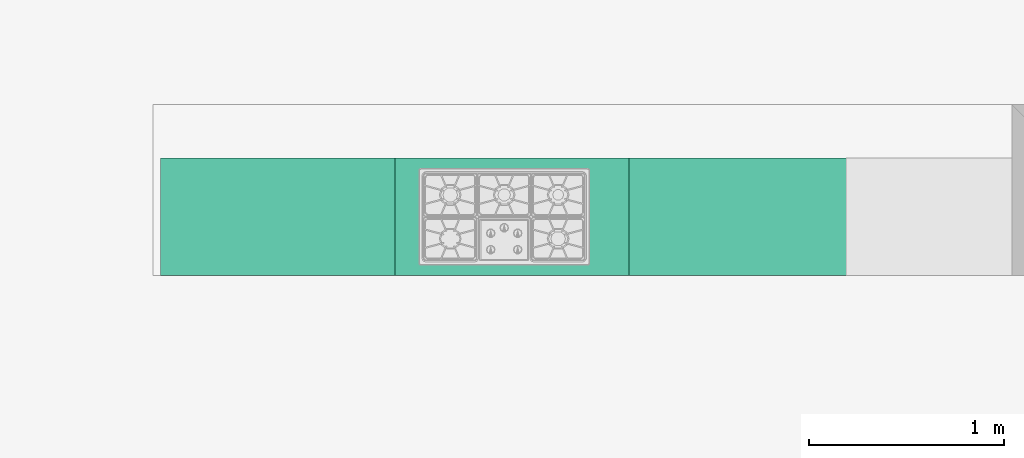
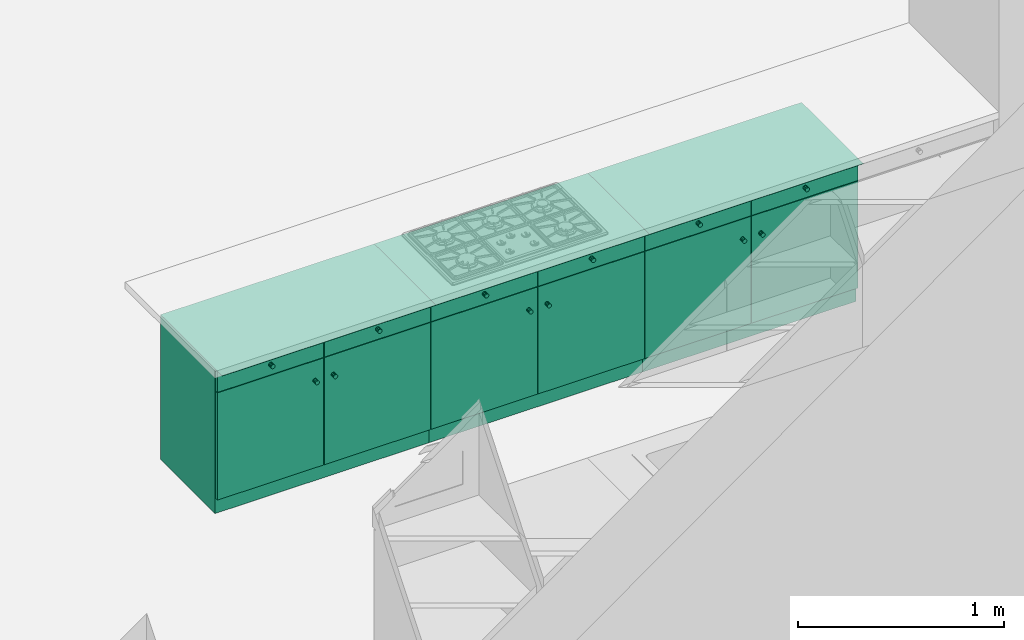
# One storey, part 15 of 26: 3 distribution elements.
"""IFC2X3 building model written with IfcOpenShell, lengths in millimetres."""

from ifc_helpers import new_model, entity, si_unit, converted_unit, money_unit, direction, frame, origin_with_axes, place, context, subcontext, project, spatial, faceted_brep, source, transform, mapped, material, type_object, element, save


model = new_model("IFC2X3")

# Units and contexts
model_context = context("Model", 3, precision=1e-05, world=origin_with_axes(), true_north=direction((0.0, 1.0)))
body_context = subcontext(model_context, "Body", "Model", "MODEL_VIEW")
ifc_project = project(units=[si_unit("LENGTHUNIT", "METRE", prefix="MILLI"), si_unit("AREAUNIT", "SQUARE_METRE"), si_unit("VOLUMEUNIT", "CUBIC_METRE"), converted_unit("PLANEANGLEUNIT", "DEGREE", entity("IfcPlaneAngleMeasure", 0.0174532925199), si_unit("PLANEANGLEUNIT", "RADIAN"), dimensions=[0, 0, 0, 0, 0, 0, 0]), si_unit("SOLIDANGLEUNIT", "STERADIAN"), money_unit("USD"), converted_unit("TIMEUNIT", "Year", entity("IfcTimeMeasure", 31556926.0), si_unit("TIMEUNIT", "SECOND"), dimensions=[0, 0, 0, 0, 0, 0, 0]), si_unit("MASSUNIT", "GRAM"), si_unit("THERMODYNAMICTEMPERATUREUNIT", "DEGREE_CELSIUS"), si_unit("LUMINOUSINTENSITYUNIT", "LUMEN")], contexts=[model_context])

# Site, building, storey
site_placement = place(None, origin_with_axes())
site = spatial("IfcSite", under=ifc_project, at=site_placement, Name="Grove Residential", CompositionType="ELEMENT")
building_placement = place(site_placement, origin_with_axes())
building = spatial("IfcBuilding", under=site, at=building_placement, Name="Building", CompositionType="ELEMENT")
storey_placement = place(building_placement, origin_with_axes())
storey = spatial("IfcBuildingStorey", under=building, at=storey_placement, Name="Ground Floor", CompositionType="ELEMENT", Elevation=0.0)

# Distribution elements
ifc_material = material(Name="Background")
distribution_element_type = type_object("IfcDistributionElementType", Name="Cabinet Base Double Door 21")
shared_shape = source(origin_with_axes(), body_context, "Body", "Brep", [
    faceted_brep([(-20.0, 70.0, 719.0), (-20.0, 70.0, 739.0), (-1180.0, 70.0, 739.0), (-1180.0, 70.0, 719.0), (-20.0, 580.0, 719.0), (-20.0, 580.0, 739.0), (-1180.0, 580.0, 739.0), (-1180.0, 580.0, 719.0)], [[[0, 1, 2, 3]], [[4, 5, 1, 0]], [[1, 5, 6, 2]], [[3, 2, 6, 7]], [[0, 3, 7, 4]], [[7, 6, 5, 4]]]),
    faceted_brep([(0.0, 70.0, 0.0), (0.0, 70.0, 90.0), (-1200.0, 70.0, 90.0), (-1200.0, 70.0, 0.0), (0.0, 600.0, 0.0), (0.0, 600.0, 90.0), (-1200.0, 600.0, 90.0), (-1200.0, 600.0, 0.0)], [[[0, 1, 2, 3]], [[4, 5, 1, 0]], [[1, 5, 6, 2]], [[3, 2, 6, 7]], [[0, 3, 7, 4]], [[7, 6, 5, 4]]]),
    faceted_brep([(0.0, 70.0, 839.0), (0.0, 70.0, 859.0), (-20.0, 70.0, 859.0), (-20.0, 70.0, 839.0), (0.0, 600.0, 839.0), (0.0, 600.0, 859.0), (-20.0, 600.0, 859.0), (-1180.0, 600.0, 859.0), (-1200.0, 600.0, 859.0), (-1200.0, 70.0, 859.0), (-1180.0, 70.0, 859.0), (-1180.0, 70.0, 839.0), (-1200.0, 70.0, 839.0), (-1200.0, 600.0, 839.0), (-1180.0, 600.0, 839.0), (-20.0, 600.0, 839.0)], [[[0, 1, 2, 3]], [[4, 5, 1, 0]], [[1, 5, 6, 7, 8, 9, 10, 2]], [[3, 2, 10, 11]], [[0, 3, 11, 12, 13, 14, 15, 4]], [[15, 6, 5, 4]], [[14, 7, 6, 15]], [[13, 8, 7, 14]], [[12, 9, 8, 13]], [[11, 10, 9, 12]]]),
    faceted_brep([(0.0, 70.0, 90.0), (0.0, 70.0, 110.0), (-20.0, 70.0, 110.0), (-20.0, 70.0, 90.0), (0.0, 600.0, 90.0), (0.0, 600.0, 110.0), (-20.0, 600.0, 110.0), (-1180.0, 600.0, 110.0), (-1200.0, 600.0, 110.0), (-1200.0, 70.0, 110.0), (-1180.0, 70.0, 110.0), (-1180.0, 70.0, 90.0), (-1200.0, 70.0, 90.0), (-1200.0, 600.0, 90.0), (-1180.0, 600.0, 90.0), (-20.0, 600.0, 90.0)], [[[0, 1, 2, 3]], [[4, 5, 1, 0]], [[1, 5, 6, 7, 8, 9, 10, 2]], [[3, 2, 10, 11]], [[0, 3, 11, 12, 13, 14, 15, 4]], [[15, 6, 5, 4]], [[14, 7, 6, 15]], [[13, 8, 7, 14]], [[12, 9, 8, 13]], [[11, 10, 9, 12]]]),
    faceted_brep([(0.0, 70.0, 110.0), (0.0, 70.0, 839.0), (-20.0, 70.0, 839.0), (-20.0, 70.0, 110.0), (0.0, 600.0, 110.0), (0.0, 600.0, 839.0), (-1200.0, 600.0, 839.0), (-1200.0, 70.0, 839.0), (-1180.0, 70.0, 839.0), (-1180.0, 580.0, 839.0), (-20.0, 580.0, 839.0), (-20.0, 580.0, 110.0), (-1180.0, 580.0, 110.0), (-1180.0, 70.0, 110.0), (-1200.0, 70.0, 110.0), (-1200.0, 600.0, 110.0)], [[[0, 1, 2, 3]], [[4, 5, 1, 0]], [[1, 5, 6, 7, 8, 9, 10, 2]], [[3, 2, 10, 11]], [[0, 3, 11, 12, 13, 14, 15, 4]], [[15, 6, 5, 4]], [[14, 7, 6, 15]], [[13, 8, 7, 14]], [[12, 9, 8, 13]], [[11, 10, 9, 12]]]),
    faceted_brep([(-1180.0, 70.0, 389.5), (-1180.0, 70.0, 409.5), (-1180.0, 580.0, 409.5), (-1180.0, 580.0, 389.5), (-20.0, 70.0, 389.5), (-20.0, 70.0, 409.5), (-20.0, 580.0, 409.5), (-20.0, 580.0, 389.5)], [[[0, 1, 2, 3]], [[4, 5, 1, 0]], [[1, 5, 6, 2]], [[3, 2, 6, 7]], [[0, 3, 7, 4]], [[7, 6, 5, 4]]]),
    faceted_brep([(0.0, 0.0, 859.0), (0.0, 0.0, 860.0), (-1200.0, 0.0, 860.0), (-1200.0, 0.0, 859.0), (0.0, 600.0, 859.0), (0.0, 600.0, 860.0), (-1200.0, 600.0, 860.0), (-1200.0, 600.0, 859.0)], [[[0, 1, 2, 3]], [[4, 5, 1, 0]], [[1, 5, 6, 2]], [[3, 2, 6, 7]], [[0, 3, 7, 4]], [[7, 6, 5, 4]]]),
    faceted_brep([(-1.5, 70.0, 730.5), (-1.5, 50.0, 730.5), (-598.5, 50.0, 730.5), (-598.5, 70.0, 730.5), (-1.5, 70.0, 857.5), (-1.5, 50.0, 857.5), (-598.5, 50.0, 857.5), (-598.5, 70.0, 857.5)], [[[0, 1, 2, 3]], [[4, 5, 1, 0]], [[1, 5, 6, 2]], [[3, 2, 6, 7]], [[0, 3, 7, 4]], [[7, 6, 5, 4]]]),
    faceted_brep([(-601.5, 70.0, 730.5), (-601.5, 50.0, 730.5), (-1198.5, 50.0, 730.5), (-1198.5, 70.0, 730.5), (-601.5, 70.0, 857.5), (-601.5, 50.0, 857.5), (-1198.5, 50.0, 857.5), (-1198.5, 70.0, 857.5)], [[[0, 1, 2, 3]], [[4, 5, 1, 0]], [[1, 5, 6, 2]], [[3, 2, 6, 7]], [[0, 3, 7, 4]], [[7, 6, 5, 4]]]),
    faceted_brep([(-295.407798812, 50.0, 782.91344561), (-300.0, 50.0, 782.0), (-304.592201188, 50.0, 782.91344561), (-308.485281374, 50.0, 785.514718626), (-311.08655439, 50.0, 789.407798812), (-312.0, 50.0, 794.0), (-311.08655439, 50.0, 798.592201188), (-308.485281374, 50.0, 802.485281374), (-304.592201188, 50.0, 805.08655439), (-300.0, 50.0, 806.0), (-295.407798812, 50.0, 805.08655439), (-291.514718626, 50.0, 802.485281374), (-288.91344561, 50.0, 798.592201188), (-288.0, 50.0, 794.0), (-288.91344561, 50.0, 789.407798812), (-291.514718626, 50.0, 785.514718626), (-295.407798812, 25.0, 782.91344561), (-300.0, 25.0, 782.0), (-304.592201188, 25.0, 782.91344561), (-308.485281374, 25.0, 785.514718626), (-311.08655439, 25.0, 789.407798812), (-312.0, 25.0, 794.0), (-311.08655439, 25.0, 798.592201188), (-308.485281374, 25.0, 802.485281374), (-304.592201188, 25.0, 805.08655439), (-300.0, 25.0, 806.0), (-295.407798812, 25.0, 805.08655439), (-291.514718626, 25.0, 802.485281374), (-288.91344561, 25.0, 798.592201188), (-288.0, 25.0, 794.0), (-288.91344561, 25.0, 789.407798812), (-291.514718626, 25.0, 785.514718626)], [[[0, 1, 2, 3, 4, 5, 6, 7, 8, 9, 10, 11, 12, 13, 14, 15]], [[0, 16, 17, 1]], [[1, 17, 18, 2]], [[2, 18, 19, 3]], [[3, 19, 20, 4]], [[4, 20, 21, 5]], [[5, 21, 22, 6]], [[6, 22, 23, 7]], [[7, 23, 24, 8]], [[8, 24, 25, 9]], [[9, 25, 26, 10]], [[10, 26, 27, 11]], [[11, 27, 28, 12]], [[12, 28, 29, 13]], [[13, 29, 30, 14]], [[14, 30, 31, 15]], [[15, 31, 16, 0]], [[16, 31, 30, 29, 28, 27, 26, 25, 24, 23, 22, 21, 20, 19, 18, 17]]]),
    faceted_brep([(-895.407798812, 50.0, 782.91344561), (-900.0, 50.0, 782.0), (-904.592201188, 50.0, 782.91344561), (-908.485281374, 50.0, 785.514718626), (-911.08655439, 50.0, 789.407798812), (-912.0, 50.0, 794.0), (-911.08655439, 50.0, 798.592201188), (-908.485281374, 50.0, 802.485281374), (-904.592201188, 50.0, 805.08655439), (-900.0, 50.0, 806.0), (-895.407798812, 50.0, 805.08655439), (-891.514718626, 50.0, 802.485281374), (-888.91344561, 50.0, 798.592201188), (-888.0, 50.0, 794.0), (-888.91344561, 50.0, 789.407798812), (-891.514718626, 50.0, 785.514718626), (-895.407798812, 25.0, 782.91344561), (-900.0, 25.0, 782.0), (-904.592201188, 25.0, 782.91344561), (-908.485281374, 25.0, 785.514718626), (-911.08655439, 25.0, 789.407798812), (-912.0, 25.0, 794.0), (-911.08655439, 25.0, 798.592201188), (-908.485281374, 25.0, 802.485281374), (-904.592201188, 25.0, 805.08655439), (-900.0, 25.0, 806.0), (-895.407798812, 25.0, 805.08655439), (-891.514718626, 25.0, 802.485281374), (-888.91344561, 25.0, 798.592201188), (-888.0, 25.0, 794.0), (-888.91344561, 25.0, 789.407798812), (-891.514718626, 25.0, 785.514718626)], [[[0, 1, 2, 3, 4, 5, 6, 7, 8, 9, 10, 11, 12, 13, 14, 15]], [[0, 16, 17, 1]], [[1, 17, 18, 2]], [[2, 18, 19, 3]], [[3, 19, 20, 4]], [[4, 20, 21, 5]], [[5, 21, 22, 6]], [[6, 22, 23, 7]], [[7, 23, 24, 8]], [[8, 24, 25, 9]], [[9, 25, 26, 10]], [[10, 26, 27, 11]], [[11, 27, 28, 12]], [[12, 28, 29, 13]], [[13, 29, 30, 14]], [[14, 30, 31, 15]], [[15, 31, 16, 0]], [[16, 31, 30, 29, 28, 27, 26, 25, 24, 23, 22, 21, 20, 19, 18, 17]]]),
    faceted_brep([(-1.5, 70.0, 91.5), (-1.5, 50.0, 91.5), (-598.5, 50.0, 91.5), (-598.5, 70.0, 91.5), (-1.5, 70.0, 727.5), (-1.5, 50.0, 727.5), (-598.5, 50.0, 727.5), (-598.5, 70.0, 727.5)], [[[0, 1, 2, 3]], [[4, 5, 1, 0]], [[1, 5, 6, 2]], [[3, 2, 6, 7]], [[0, 3, 7, 4]], [[7, 6, 5, 4]]]),
    faceted_brep([(-559.58655439, 50.0, 606.907798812), (-560.5, 50.0, 611.5), (-559.58655439, 50.0, 616.092201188), (-556.985281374, 50.0, 619.985281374), (-553.092201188, 50.0, 622.58655439), (-548.5, 50.0, 623.5), (-543.907798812, 50.0, 622.58655439), (-540.014718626, 50.0, 619.985281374), (-537.41344561, 50.0, 616.092201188), (-536.5, 50.0, 611.5), (-537.41344561, 50.0, 606.907798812), (-540.014718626, 50.0, 603.014718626), (-543.907798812, 50.0, 600.41344561), (-548.5, 50.0, 599.5), (-553.092201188, 50.0, 600.41344561), (-556.985281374, 50.0, 603.014718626), (-559.58655439, 25.0, 606.907798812), (-560.5, 25.0, 611.5), (-559.58655439, 25.0, 616.092201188), (-556.985281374, 25.0, 619.985281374), (-553.092201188, 25.0, 622.58655439), (-548.5, 25.0, 623.5), (-543.907798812, 25.0, 622.58655439), (-540.014718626, 25.0, 619.985281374), (-537.41344561, 25.0, 616.092201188), (-536.5, 25.0, 611.5), (-537.41344561, 25.0, 606.907798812), (-540.014718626, 25.0, 603.014718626), (-543.907798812, 25.0, 600.41344561), (-548.5, 25.0, 599.5), (-553.092201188, 25.0, 600.41344561), (-556.985281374, 25.0, 603.014718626)], [[[0, 1, 2, 3, 4, 5, 6, 7, 8, 9, 10, 11, 12, 13, 14, 15]], [[0, 16, 17, 1]], [[1, 17, 18, 2]], [[2, 18, 19, 3]], [[3, 19, 20, 4]], [[4, 20, 21, 5]], [[5, 21, 22, 6]], [[6, 22, 23, 7]], [[7, 23, 24, 8]], [[8, 24, 25, 9]], [[9, 25, 26, 10]], [[10, 26, 27, 11]], [[11, 27, 28, 12]], [[12, 28, 29, 13]], [[13, 29, 30, 14]], [[14, 30, 31, 15]], [[15, 31, 16, 0]], [[16, 31, 30, 29, 28, 27, 26, 25, 24, 23, 22, 21, 20, 19, 18, 17]]]),
    faceted_brep([(-1198.5, 70.0, 91.5), (-601.5, 70.0, 91.5), (-601.5, 50.0, 91.5), (-1198.5, 50.0, 91.5), (-1198.5, 70.0, 727.5), (-601.5, 70.0, 727.5), (-601.5, 50.0, 727.5), (-1198.5, 50.0, 727.5)], [[[0, 1, 2, 3]], [[0, 4, 5, 1]], [[1, 5, 6, 2]], [[3, 2, 6, 7]], [[4, 0, 3, 7]], [[5, 4, 7, 6]]]),
    faceted_brep([(-640.41344561, 50.0, 606.907798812), (-643.014718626, 50.0, 603.014718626), (-646.907798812, 50.0, 600.41344561), (-651.5, 50.0, 599.5), (-656.092201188, 50.0, 600.41344561), (-659.985281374, 50.0, 603.014718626), (-662.58655439, 50.0, 606.907798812), (-663.5, 50.0, 611.5), (-662.58655439, 50.0, 616.092201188), (-659.985281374, 50.0, 619.985281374), (-656.092201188, 50.0, 622.58655439), (-651.5, 50.0, 623.5), (-646.907798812, 50.0, 622.58655439), (-643.014718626, 50.0, 619.985281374), (-640.41344561, 50.0, 616.092201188), (-639.5, 50.0, 611.5), (-640.41344561, 25.0, 606.907798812), (-643.014718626, 25.0, 603.014718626), (-646.907798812, 25.0, 600.41344561), (-651.5, 25.0, 599.5), (-656.092201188, 25.0, 600.41344561), (-659.985281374, 25.0, 603.014718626), (-662.58655439, 25.0, 606.907798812), (-663.5, 25.0, 611.5), (-662.58655439, 25.0, 616.092201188), (-659.985281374, 25.0, 619.985281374), (-656.092201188, 25.0, 622.58655439), (-651.5, 25.0, 623.5), (-646.907798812, 25.0, 622.58655439), (-643.014718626, 25.0, 619.985281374), (-640.41344561, 25.0, 616.092201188), (-639.5, 25.0, 611.5)], [[[0, 1, 2, 3, 4, 5, 6, 7, 8, 9, 10, 11, 12, 13, 14, 15]], [[1, 0, 16, 17]], [[2, 1, 17, 18]], [[3, 2, 18, 19]], [[4, 3, 19, 20]], [[5, 4, 20, 21]], [[6, 5, 21, 22]], [[7, 6, 22, 23]], [[8, 7, 23, 24]], [[9, 8, 24, 25]], [[10, 9, 25, 26]], [[11, 10, 26, 27]], [[12, 11, 27, 28]], [[13, 12, 28, 29]], [[14, 13, 29, 30]], [[15, 14, 30, 31]], [[0, 15, 31, 16]], [[16, 31, 30, 29, 28, 27, 26, 25, 24, 23, 22, 21, 20, 19, 18, 17]]]),
])
for number, where, z_axis, x_axis, name in (
    (1, (4840.0, 9200.0, 0.0), (0.0, 0.0, 1.0), (1.0, 0.0, 0.0), "FU - 001"),
    (2, (6040.0, 9200.0, 0.0), (0.0, 0.0, 1.0), (1.0, 0.0, 0.0), "FU - 001"),
    (3, (7240.0, 9200.0, 0.0), (0.0, 0.0, 1.0), (1.0, 0.0, 0.0), "FU - 001"),
):
    element("IfcDistributionElement", number, at=place(storey_placement, frame(where, z_axis=z_axis, x_axis=x_axis)), inside=storey, type_object=distribution_element_type, material=ifc_material, Name=name, context=body_context, shape_type="MappedRepresentation", body=[
        mapped(shared_shape, transform((0.0, 0.0, 0.0))),
    ])

save(model, "model.ifc")
